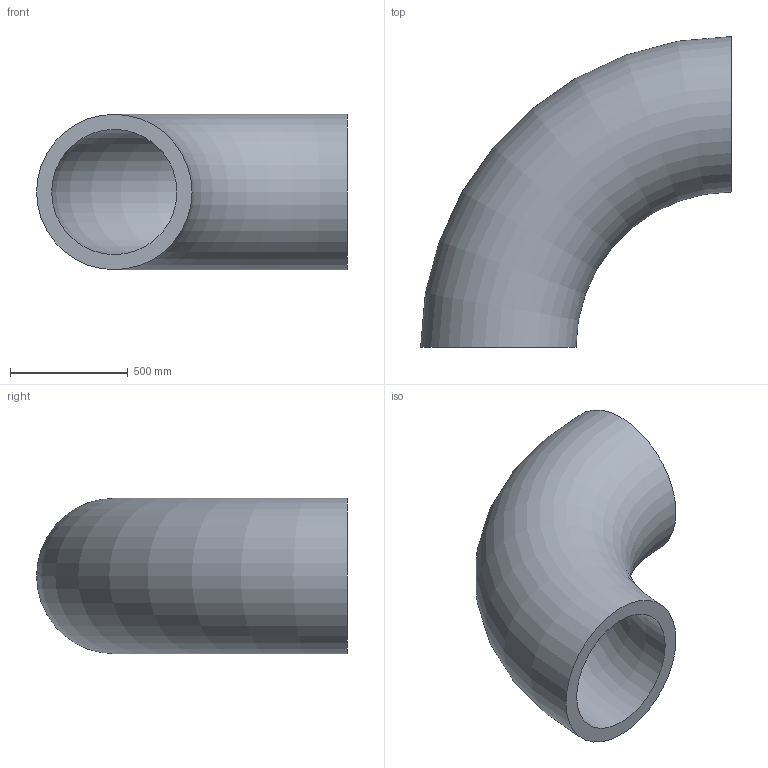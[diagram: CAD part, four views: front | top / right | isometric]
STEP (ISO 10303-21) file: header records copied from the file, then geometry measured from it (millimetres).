
FILE_DESCRIPTION(/* description */ (''),/* implementation_level */ '2;1');
FILE_NAME(/* name */ 'C:\Users\D\Documents\Inventor\HP\JIS\配管\エルボ ロング 90°\Sch160\Elbow-long-90-650A-Sch160.stp',/* time_stamp */ '2022-06-09T18:41:55+09:00',/* author */ ('D'),/* organization */ (''),/* preprocessor_version */ 'ST-DEVELOPER v18',/* originating_system */ 'Autodesk Inventor 2020',/* authorisation */ '');
FILE_SCHEMA (('AUTOMOTIVE_DESIGN { 1 0 10303 214 3 1 1 }'));
Length unit declared in the file: millimetre
Products named in the file (1): Elbow-long-90-15A-SGP
Bounding box: 1320.8 x 1320.8 x 660.4 mm (x, y, z)
Volume: 187109170.4 mm3; surface area: 6069441.6 mm2
Topology: 1 solids, 1 shells, 4 faces, 10 edges, 8 vertices
Faces by surface type: torus 2, plane 2
Entity records: 181 total; most frequent: DIRECTION 30, CARTESIAN_POINT 23, ORIENTED_EDGE 20, AXIS2_PLACEMENT_3D 15, CIRCLE 10, EDGE_CURVE 10, VERTEX_POINT 8, EDGE_LOOP 6
